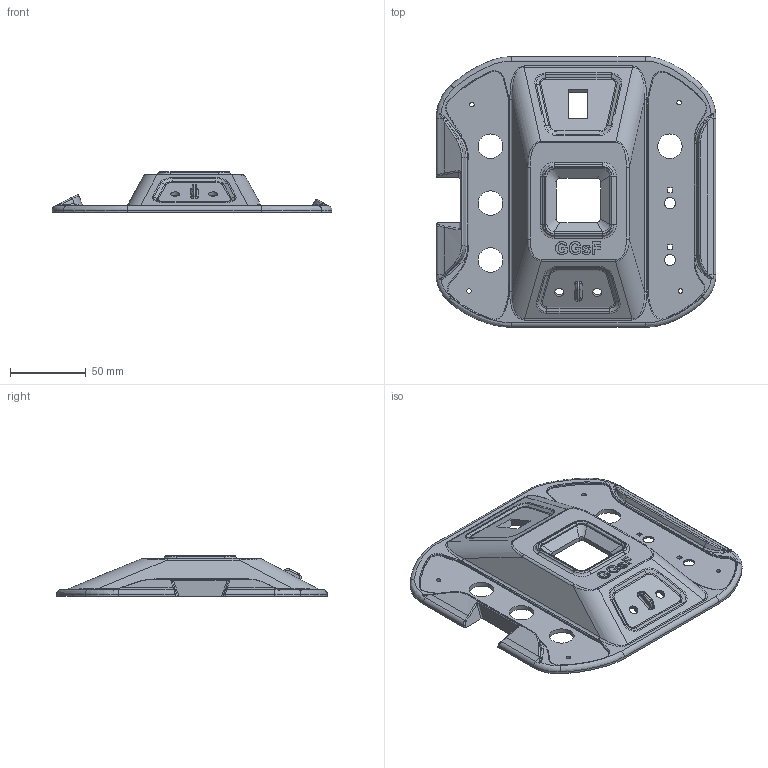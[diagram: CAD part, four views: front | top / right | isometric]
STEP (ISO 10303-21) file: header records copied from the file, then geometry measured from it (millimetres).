
FILE_DESCRIPTION(/* description */ (''),/* implementation_level */ '2;1');
FILE_NAME(/* name */ 'LAST_Base 01.stp',/* time_stamp */ '2025-11-19T21:12:01+09:00',/* author */ (''),/* organization */ (''),/* preprocessor_version */ 'ST-DEVELOPER v11',/* originating_system */ 'SIEMENS PLM Software NX 7.5',/* authorisation */ '');
FILE_SCHEMA (('CONFIG_CONTROL_DESIGN'));
Length unit declared in the file: millimetre
Products named in the file (1): gyun8741ynvz
Bounding box: 184.4 x 178.4 x 27 mm (x, y, z)
Volume: 139753 mm3; surface area: 73038.3 mm2
Topology: 1 solids, 1 shells, 619 faces, 1561 edges, 963 vertices
Faces by surface type: plane 206, cylinder 173, bspline 142, torus 44, extrusion 38, cone 16
Full cylindrical faces by diameter (mm): 2.9 x8, 6 x2, 7.4 x2, 12 x2, 16.2 x4
Entity records: 21985 total; most frequent: CARTESIAN_POINT 8006, ORIENTED_EDGE 3056, DIRECTION 2632, EDGE_CURVE 1528, AXIS2_PLACEMENT_3D 969, VERTEX_POINT 952, VECTOR 694, EDGE_LOOP 692
